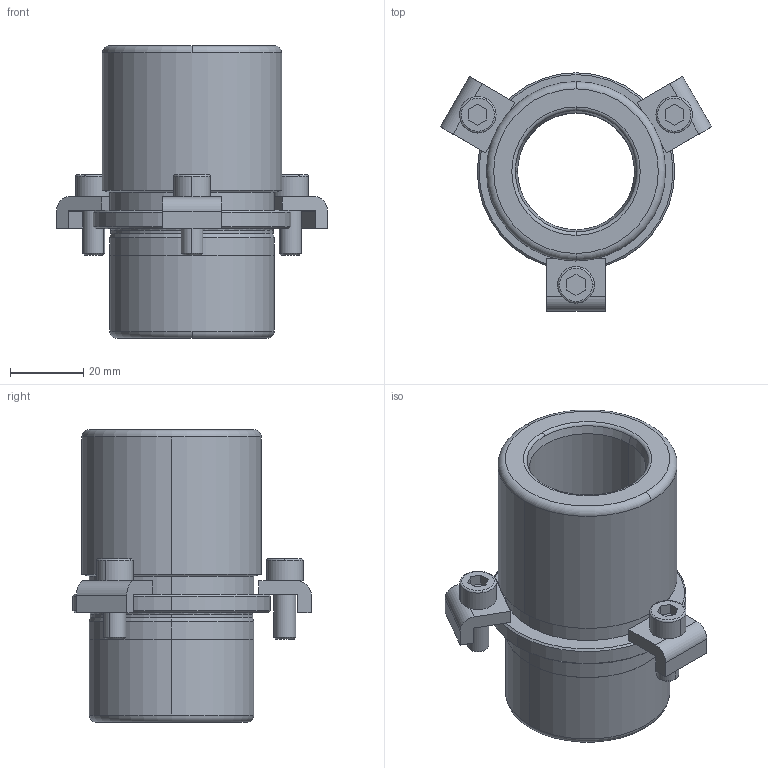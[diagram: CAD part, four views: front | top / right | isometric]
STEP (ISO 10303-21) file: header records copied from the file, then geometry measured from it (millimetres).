
FILE_DESCRIPTION((''),'2;1');
FILE_NAME('B40_024_050.stp','2009-01-05T16:01:54',(''),(''),'Mechanical Desktop 2009','Mechanical Desktop 2009',', , ');
FILE_SCHEMA(('CONFIG_CONTROL_DESIGN'));
Length unit declared in the file: millimetre
Products named in the file (2): Product; blmdl1
Assembly tree (1 placements, depth 2):
  Product
    blmdl1
Bounding box: 74.11 x 65.2 x 80 mm (x, y, z)
Volume: 82899.5 mm3; surface area: 27547.1 mm2
Topology: 7 solids, 7 shells, 141 faces, 362 edges, 238 vertices
Faces by surface type: plane 59, cylinder 38, cone 20, torus 14, bspline 10
Entity records: 4891 total; most frequent: CARTESIAN_POINT 1231, DIRECTION 794, ORIENTED_EDGE 724, EDGE_CURVE 362, AXIS2_PLACEMENT_3D 311, VERTEX_POINT 238, CIRCLE 178, VECTOR 172
